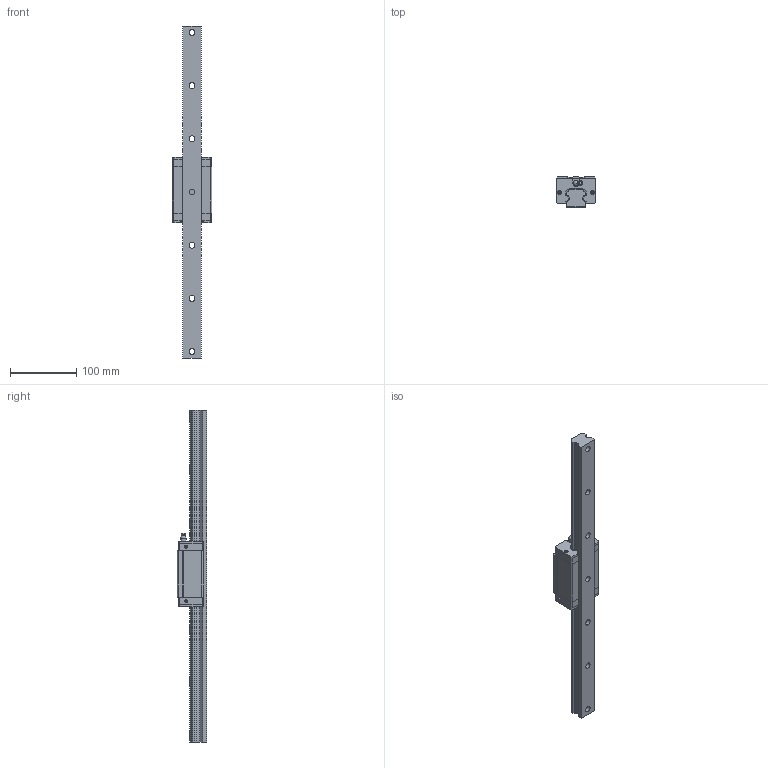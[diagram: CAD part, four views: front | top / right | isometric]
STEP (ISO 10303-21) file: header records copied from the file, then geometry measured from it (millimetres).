
FILE_DESCRIPTION(/* description */ ('STEP AP203'),/* implementation_level */ '2;1');
FILE_NAME(/* name */ 'D:\FOLDER Tomasz Michałek\pliki z pulpitu\Katalogi inne\Technika liniowa\NATECH\Modele 3D\NATECH linear block 3D drawing\NGH\NGH30CA\NGH30CA1R500.stp',/* time_stamp */ '2021-01-21T17:07:20+01:00',/* author */ ('dnia_tomasz_tm'),/* organization */ ('IT'),/* preprocessor_version */ 'ST-DEVELOPER v16.13',/* originating_system */ 'Autodesk Inventor 2018',/* authorisation */ '');
FILE_SCHEMA (('AUTOMOTIVE_DESIGN { 1 0 10303 214 3 1 1 }'));
Length unit declared in the file: millimetre
Products named in the file (3): NGH30CA1R500ZACI; GHH30CA1R500ZACI_1_GHH30CA; GHH30CA1R500ZACI_2_GHH30CA
Assembly tree (2 placements, depth 2):
  NGH30CA1R500ZACI
    GHH30CA1R500ZACI_1_GHH30CA
    GHH30CA1R500ZACI_2_GHH30CA
Bounding box: 60 x 45 x 500 mm (x, y, z)
Volume: 476196.5 mm3; surface area: 105199.4 mm2
Topology: 7 solids, 7 shells, 424 faces, 1092 edges, 719 vertices
Faces by surface type: plane 318, cylinder 68, cone 23, torus 9, sphere 5, bspline 1
Full cylindrical faces by diameter (mm): 0.575 x4, 4.26 x6, 4.5 x1, 4.656 x4, 5.82 x4, 6.4 x4, 8 x5, 9 x7, 14 x7
Entity records: 12538 total; most frequent: CARTESIAN_POINT 2264, DIRECTION 2062, ORIENTED_EDGE 2050, EDGE_CURVE 1025, LINE 770, VECTOR 770, VERTEX_POINT 710, AXIS2_PLACEMENT_3D 646
